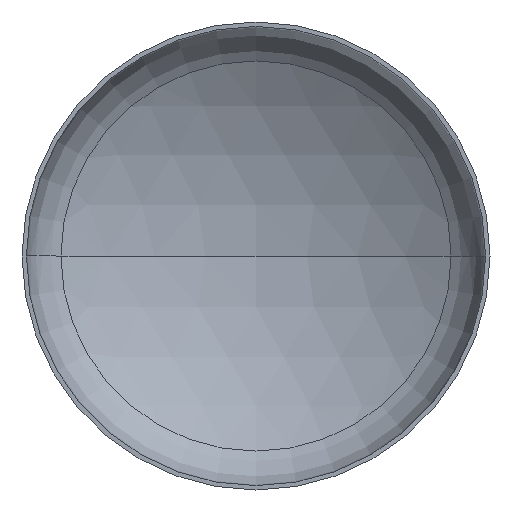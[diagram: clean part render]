
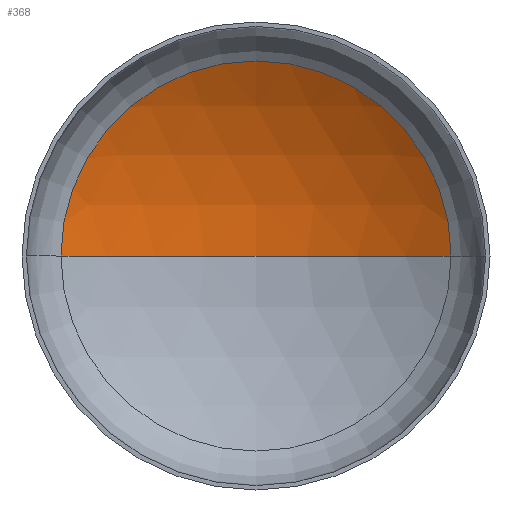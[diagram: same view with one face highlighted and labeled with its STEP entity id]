
A CAD part, front view. The second image highlights one B-rep face of the part: STEP entity #368.
In plain terms, the highlighted spherical face has radius 4000 mm.
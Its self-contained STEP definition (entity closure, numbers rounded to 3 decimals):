
#9 = AXIS2_PLACEMENT_3D ( 'NONE', #397, #273, #164 ) ;
#10 = EDGE_LOOP ( 'NONE', ( #89, #85, #40 ) ) ;
#15 = DIRECTION ( 'NONE',  ( 1., 0., 0. ) ) ;
#40 = ORIENTED_EDGE ( 'NONE', *, *, #174, .T. ) ;
#71 = VERTEX_POINT ( 'NONE', #362 ) ;
#85 = ORIENTED_EDGE ( 'NONE', *, *, #177, .T. ) ;
#89 = ORIENTED_EDGE ( 'NONE', *, *, #182, .F. ) ;
#91 = FACE_OUTER_BOUND ( 'NONE', #10, .T. ) ;
#97 = VERTEX_POINT ( 'NONE', #228 ) ;
#98 = AXIS2_PLACEMENT_3D ( 'NONE', #222, #218, #220 ) ;
#106 = AXIS2_PLACEMENT_3D ( 'NONE', #215, #379, #189 ) ;
#114 = AXIS2_PLACEMENT_3D ( 'NONE', #211, #289, #15 ) ;
#147 = CIRCLE ( 'NONE', #98, 4000. ) ;
#163 = CIRCLE ( 'NONE', #114, 2084.211 ) ;
#164 = DIRECTION ( 'NONE',  ( -1., 0., 0. ) ) ;
#174 = EDGE_CURVE ( 'NONE', #71, #97, #163, .T. ) ;
#177 = EDGE_CURVE ( 'NONE', #326, #71, #230, .T. ) ;
#182 = EDGE_CURVE ( 'NONE', #326, #97, #147, .T. ) ;
#189 = DIRECTION ( 'NONE',  ( -1., 0., 0. ) ) ;
#211 = CARTESIAN_POINT ( 'NONE',  ( 0., 807.214, 0. ) ) ;
#215 = CARTESIAN_POINT ( 'NONE',  ( 0., -2606.884, 0. ) ) ;
#218 = DIRECTION ( 'NONE',  ( 0., 0., 1. ) ) ;
#220 = DIRECTION ( 'NONE',  ( 1., 0., 0. ) ) ;
#222 = CARTESIAN_POINT ( 'NONE',  ( 0., -2606.884, 0. ) ) ;
#228 = CARTESIAN_POINT ( 'NONE',  ( -2084.211, 807.214, 0. ) ) ;
#230 = CIRCLE ( 'NONE', #106, 4000. ) ;
#265 = SPHERICAL_SURFACE ( 'NONE', #9, 4000. ) ;
#273 = DIRECTION ( 'NONE',  ( 0., 0., -1. ) ) ;
#289 = DIRECTION ( 'NONE',  ( 0., -1., 0. ) ) ;
#326 = VERTEX_POINT ( 'NONE', #395 ) ;
#362 = CARTESIAN_POINT ( 'NONE',  ( 2084.211, 807.214, 0. ) ) ;
#368 = ADVANCED_FACE ( 'NONE', ( #91 ), #265, .F. ) ;
#379 = DIRECTION ( 'NONE',  ( 0., 0., -1. ) ) ;
#395 = CARTESIAN_POINT ( 'NONE',  ( 0., 1393.116, 0. ) ) ;
#397 = CARTESIAN_POINT ( 'NONE',  ( 0., -2606.884, 0. ) ) ;
